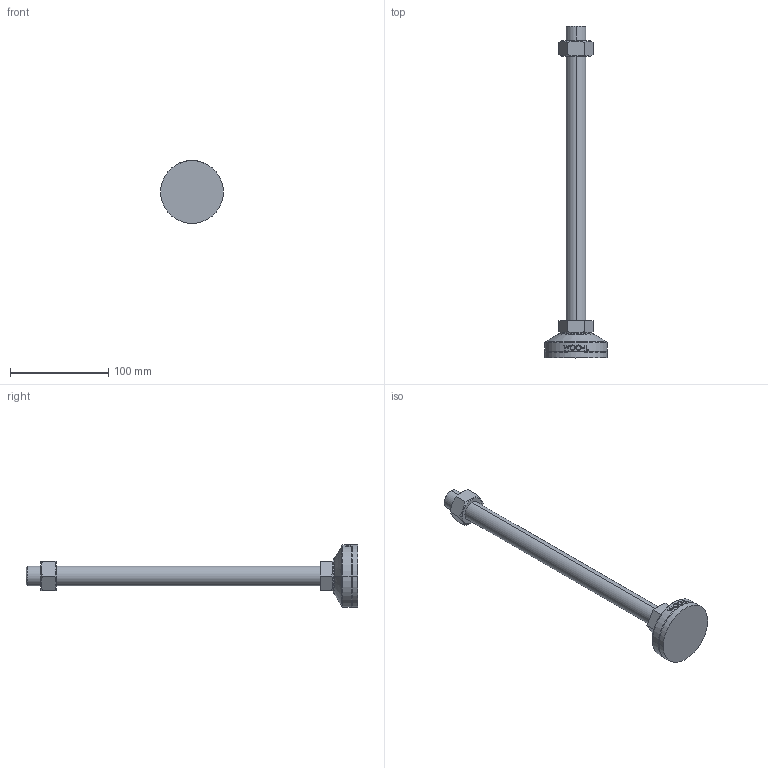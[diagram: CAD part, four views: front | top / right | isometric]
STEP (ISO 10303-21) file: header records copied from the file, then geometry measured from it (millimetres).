
FILE_DESCRIPTION (( 'STEP AP214' ), '1' );
FILE_NAME ('MFR64-M20-300.step', '2021-01-13T05:39:01', ( '' ), ( '' ), 'SwSTEP 2.0', 'SolidWorks 2019', '' );
FILE_SCHEMA (( 'AUTOMOTIVE_DESIGN' ));
Length unit declared in the file: millimetre
Products named in the file (2): MFR64-M20-300
Bounding box: 64 x 338 x 64 mm (x, y, z)
Volume: 180347.3 mm3; surface area: 35501.3 mm2
Topology: 3 solids, 3 shells, 102 faces, 235 edges, 150 vertices
Faces by surface type: plane 48, cylinder 18, bspline 16, cone 14, torus 6
Entity records: 4386 total; most frequent: CARTESIAN_POINT 2131, ORIENTED_EDGE 470, DIRECTION 415, EDGE_CURVE 235, AXIS2_PLACEMENT_3D 158, VERTEX_POINT 150, EDGE_LOOP 115, ADVANCED_FACE 102
